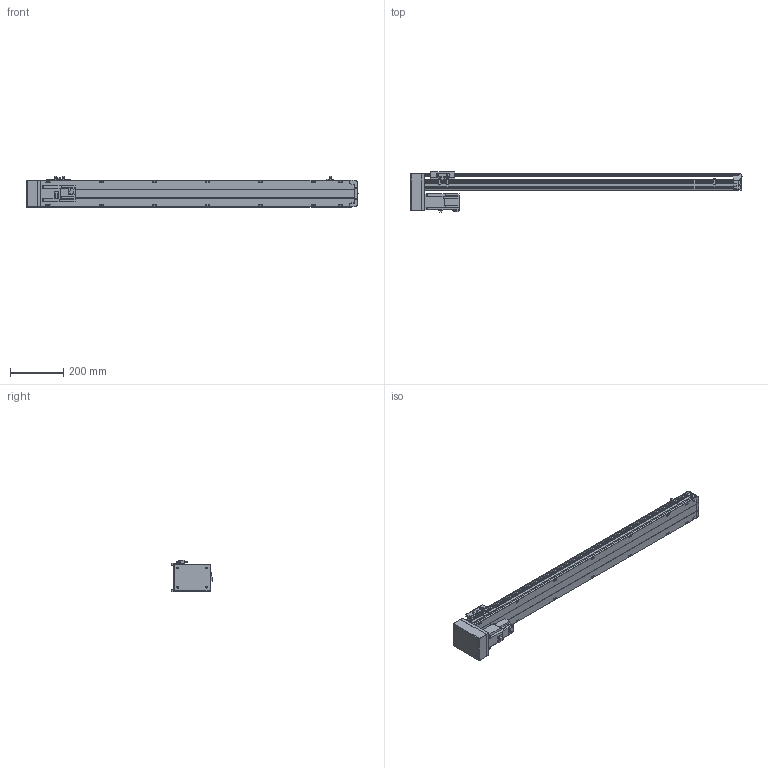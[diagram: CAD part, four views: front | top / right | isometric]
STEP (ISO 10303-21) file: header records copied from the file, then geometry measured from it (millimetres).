
FILE_DESCRIPTION(/* description */ ('STEP AP214'),/* implementation_level */ '2;1');
FILE_NAME(/* name */ 'PSS120-L10-S1000-BM-T40-C1-N(0)',/* time_stamp */ '2022-06-06T02:27:12+02:00',/* author */ ('License CC BY-ND 4.0'),/* organization */ ('CADENAS'),/* preprocessor_version */ 'ST-DEVELOPER v18.102',/* originating_system */ 'PARTsolutions',/* authorisation */ ' ');
FILE_SCHEMA (('AUTOMOTIVE_DESIGN {1 0 10303 214 3 1 1}'));
Length unit declared in the file: millimetre
Products named in the file (8): PSS120-L10-S1000-BM-T40-C1-N(0); PSS120-S1000-BM-N_S; T40-p1; PSS120BM-N_h; PSS120-N_sensor; PSS120-BM-C1-N_sl; PSS120-N_Q; PSS120-S1000-BM-C1-N_body
Assembly tree (9 placements, depth 2):
  PSS120-L10-S1000-BM-T40-C1-N(0)
    PSS120-S1000-BM-N_S
    T40-p1
    PSS120BM-N_h
    PSS120-N_sensor  x3
    PSS120-BM-C1-N_sl
    PSS120-N_Q
    PSS120-S1000-BM-C1-N_body
Bounding box: 1249.35 x 151.8 x 117.7 mm (x, y, z)
Volume: 4875402.1 mm3; surface area: 806188.1 mm2
Topology: 9 solids, 9 shells, 857 faces, 2301 edges, 1526 vertices
Faces by surface type: plane 586, cylinder 245, cone 22, sphere 4
Full cylindrical faces by diameter (mm): 2.8 x3, 4 x4, 4.134 x18, 4.4 x2, 4.5 x4, 4.6 x3, 5 x6, 5.5 x21, 7 x2, 7.4 x4, 8 x4, 8.5 x18, 14 x1, 28 x1, 32 x2, 50 x1
Entity records: 23171 total; most frequent: CARTESIAN_POINT 4222, DIRECTION 3853, ORIENTED_EDGE 3754, EDGE_CURVE 1877, LINE 1315, VECTOR 1315, VERTEX_POINT 1310, AXIS2_PLACEMENT_3D 1269
